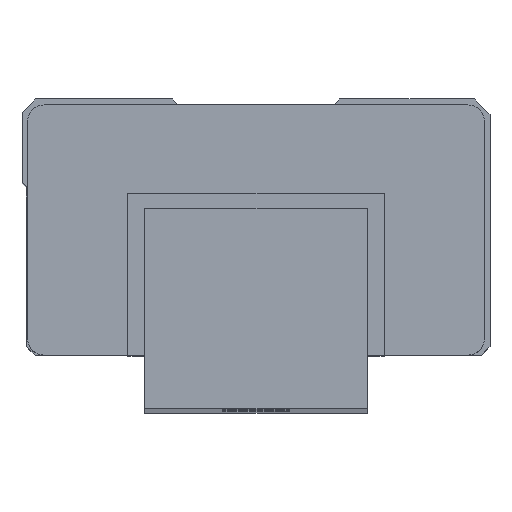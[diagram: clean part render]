
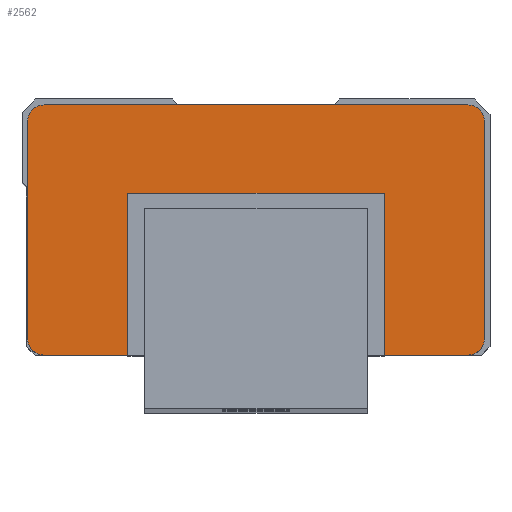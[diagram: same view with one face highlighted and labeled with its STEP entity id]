
A CAD part, top view. The second image highlights one B-rep face of the part: STEP entity #2562.
In plain terms, the highlighted planar face has unit normal (0, 0, 1).
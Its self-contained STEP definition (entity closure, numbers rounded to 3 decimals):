
#2342=CARTESIAN_POINT('',(21.5,5.,118.0));
#2343=VERTEX_POINT('',#2342);
#2350=CARTESIAN_POINT('',(21.5,19.5,118.0));
#2351=VERTEX_POINT('',#2350);
#2352=CARTESIAN_POINT('',(21.5,5.,118.0));
#2353=DIRECTION('',(0.0,1.0,0.0));
#2354=VECTOR('',#2353,1.0);
#2355=LINE('',#2352,#2354);
#2356=EDGE_CURVE('',#2343,#2351,#2355,.T.);
#2381=CARTESIAN_POINT('',(-1.5,19.5,118.0));
#2382=VERTEX_POINT('',#2381);
#2383=CARTESIAN_POINT('',(21.5,19.5,118.0));
#2384=DIRECTION('',(-1.0,0.0,0.0));
#2385=VECTOR('',#2384,1.0);
#2386=LINE('',#2383,#2385);
#2387=EDGE_CURVE('',#2351,#2382,#2386,.T.);
#2412=CARTESIAN_POINT('',(-1.5,5.,118.0));
#2413=VERTEX_POINT('',#2412);
#2414=CARTESIAN_POINT('',(-1.5,19.5,118.0));
#2415=DIRECTION('',(0.0,-1.0,0.0));
#2416=VECTOR('',#2415,1.0);
#2417=LINE('',#2414,#2416);
#2418=EDGE_CURVE('',#2382,#2413,#2417,.T.);
#2478=CARTESIAN_POINT('',(-12.55,3.877,118.0));
#2479=DIRECTION('',(0.0,0.0,1.0));
#2480=DIRECTION('',(1.0,0.0,0.0));
#2481=AXIS2_PLACEMENT_3D('',#2478,#2479,#2480);
#2482=PLANE('',#2481);
#2483=ORIENTED_EDGE('',*,*,#2356,.F.);
#2484=CARTESIAN_POINT('',(29.,5.,118.0));
#2485=VERTEX_POINT('',#2484);
#2486=CARTESIAN_POINT('',(21.5,5.,118.0));
#2487=DIRECTION('',(1.0,0.0,0.0));
#2488=VECTOR('',#2487,1.0);
#2489=LINE('',#2486,#2488);
#2490=EDGE_CURVE('',#2343,#2485,#2489,.T.);
#2491=ORIENTED_EDGE('',*,*,#2490,.T.);
#2492=CARTESIAN_POINT('',(30.5,6.5,118.0));
#2493=VERTEX_POINT('',#2492);
#2494=CARTESIAN_POINT('',(29.,6.5,118.));
#2495=DIRECTION('',(0.,0.,1.0));
#2496=DIRECTION('',(0.,-1.0,0.));
#2497=AXIS2_PLACEMENT_3D('',#2494,#2495,#2496);
#2498=CIRCLE('',#2497,1.5);
#2499=EDGE_CURVE('',#2485,#2493,#2498,.T.);
#2500=ORIENTED_EDGE('',*,*,#2499,.T.);
#2501=CARTESIAN_POINT('',(30.5,25.95,118.0));
#2502=VERTEX_POINT('',#2501);
#2503=CARTESIAN_POINT('',(30.5,6.5,118.0));
#2504=DIRECTION('',(0.0,1.0,0.0));
#2505=VECTOR('',#2504,1.0);
#2506=LINE('',#2503,#2505);
#2507=EDGE_CURVE('',#2493,#2502,#2506,.T.);
#2508=ORIENTED_EDGE('',*,*,#2507,.T.);
#2509=CARTESIAN_POINT('',(29.,27.45,118.0));
#2510=VERTEX_POINT('',#2509);
#2511=CARTESIAN_POINT('',(29.,25.95,118.0));
#2512=DIRECTION('',(0.0,0.0,1.0));
#2513=DIRECTION('',(1.0,0.0,0.0));
#2514=AXIS2_PLACEMENT_3D('',#2511,#2512,#2513);
#2515=CIRCLE('',#2514,1.5);
#2516=EDGE_CURVE('',#2502,#2510,#2515,.T.);
#2517=ORIENTED_EDGE('',*,*,#2516,.T.);
#2518=CARTESIAN_POINT('',(-9.,27.45,118.0));
#2519=VERTEX_POINT('',#2518);
#2520=CARTESIAN_POINT('',(29.,27.45,118.0));
#2521=DIRECTION('',(-1.0,0.0,0.0));
#2522=VECTOR('',#2521,1.0);
#2523=LINE('',#2520,#2522);
#2524=EDGE_CURVE('',#2510,#2519,#2523,.T.);
#2525=ORIENTED_EDGE('',*,*,#2524,.T.);
#2526=CARTESIAN_POINT('',(-10.5,25.95,118.0));
#2527=VERTEX_POINT('',#2526);
#2528=CARTESIAN_POINT('',(-9.,25.95,118.));
#2529=DIRECTION('',(0.,0.,1.0));
#2530=DIRECTION('',(0.0,1.0,0.));
#2531=AXIS2_PLACEMENT_3D('',#2528,#2529,#2530);
#2532=CIRCLE('',#2531,1.5);
#2533=EDGE_CURVE('',#2519,#2527,#2532,.T.);
#2534=ORIENTED_EDGE('',*,*,#2533,.T.);
#2535=CARTESIAN_POINT('',(-10.5,6.5,118.0));
#2536=VERTEX_POINT('',#2535);
#2537=CARTESIAN_POINT('',(-10.5,25.95,118.0));
#2538=DIRECTION('',(0.0,-1.0,0.0));
#2539=VECTOR('',#2538,1.0);
#2540=LINE('',#2537,#2539);
#2541=EDGE_CURVE('',#2527,#2536,#2540,.T.);
#2542=ORIENTED_EDGE('',*,*,#2541,.T.);
#2543=CARTESIAN_POINT('',(-9.,5.,118.0));
#2544=VERTEX_POINT('',#2543);
#2545=CARTESIAN_POINT('',(-9.,6.5,118.));
#2546=DIRECTION('',(0.,0.,1.0));
#2547=DIRECTION('',(-1.0,0.,0.));
#2548=AXIS2_PLACEMENT_3D('',#2545,#2546,#2547);
#2549=CIRCLE('',#2548,1.5);
#2550=EDGE_CURVE('',#2536,#2544,#2549,.T.);
#2551=ORIENTED_EDGE('',*,*,#2550,.T.);
#2552=CARTESIAN_POINT('',(-9.,5.,118.0));
#2553=DIRECTION('',(1.0,0.0,0.0));
#2554=VECTOR('',#2553,1.0);
#2555=LINE('',#2552,#2554);
#2556=EDGE_CURVE('',#2544,#2413,#2555,.T.);
#2557=ORIENTED_EDGE('',*,*,#2556,.T.);
#2558=ORIENTED_EDGE('',*,*,#2418,.F.);
#2559=ORIENTED_EDGE('',*,*,#2387,.F.);
#2560=EDGE_LOOP('',(#2483,#2491,#2500,#2508,#2517,#2525,#2534,#2542,#2551,#2557,#2558,#2559));
#2561=FACE_OUTER_BOUND('',#2560,.T.);
#2562=ADVANCED_FACE('',(#2561),#2482,.T.);
